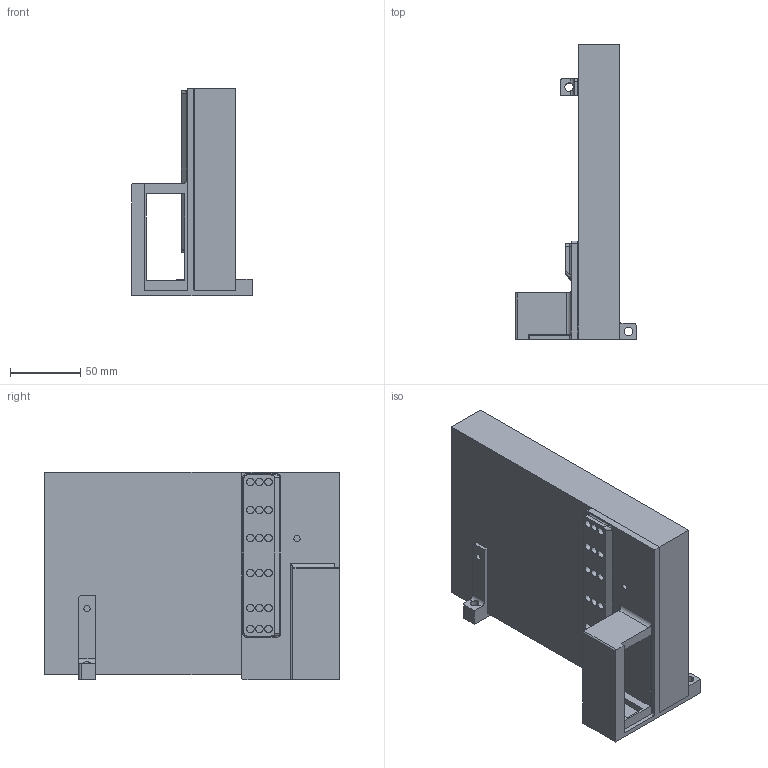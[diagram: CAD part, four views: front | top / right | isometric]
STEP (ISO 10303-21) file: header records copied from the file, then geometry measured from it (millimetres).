
FILE_DESCRIPTION(/* description */ (''),/* implementation_level */ '2;1');
FILE_NAME(/* name */ 'G:/Dropbox/CBA/projects/squidworks/circuits/bonus/pdbs/psu-mw350/PSU-MW350 v3.step',/* time_stamp */ '2019-09-30T17:13:11-04:00',/* author */ (''),/* organization */ (''),/* preprocessor_version */ 'ST-DEVELOPER v18',/* originating_system */ 'Autodesk Translation Framework v8.6.0.1094',/* authorisation */ '');
FILE_SCHEMA (('AUTOMOTIVE_DESIGN { 1 0 10303 214 3 1 1 }'));
Length unit declared in the file: millimetre
Products named in the file (1): PSU-MW350
Bounding box: 86 x 210.25 x 148.27 mm (x, y, z)
Volume: 1008713.6 mm3; surface area: 126420.1 mm2
Topology: 3 solids, 3 shells, 128 faces, 304 edges, 200 vertices
Faces by surface type: plane 71, cylinder 53, torus 2, bspline 2
Full cylindrical faces by diameter (mm): 4.25 x2, 4.5 x2, 5.4 x18, 6 x3
Entity records: 3846 total; most frequent: CARTESIAN_POINT 717, DIRECTION 666, ORIENTED_EDGE 608, EDGE_CURVE 304, AXIS2_PLACEMENT_3D 238, VERTEX_POINT 200, LINE 190, VECTOR 190
